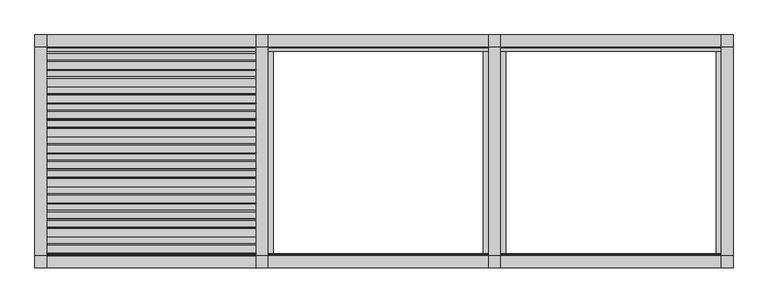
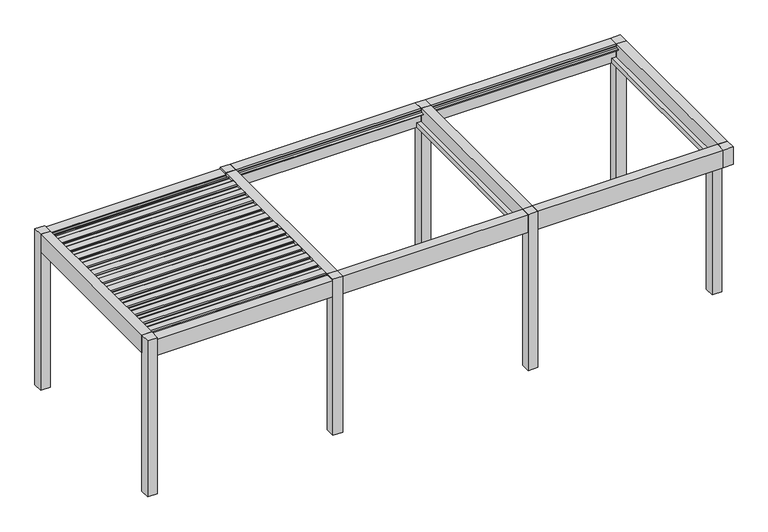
"""IFC4 building model written with IfcOpenShell, lengths in millimetres: proxy geometry, Renson_Amani_Patio_Cover : Renson_Amani_Patio_Cover."""

from ifc_helpers import new_model, si_unit, point, frame, frame_2d, origin, origin_with_axes, place, context, project, spatial, polyline, circle_curve, trimmed, segment, composite_curve, outline, extrude, source, transform, mapped, element, save


def generic_models_0d35a46a(model_context):
    return source(origin(), model_context, "Body", "SweptSolid", [
        extrude(outline(composite_curve([segment(polyline([(-1073.7289238, 2483.35), (-1076.1490335, 2511.01198), (-1104.984284, 2512.3970364), (-1101.5469529, 2531.8911096), (-991.549838, 2526.6075693)]), True, "CONTINUOUS"), segment(trimmed(circle_curve(frame_2d((-992.26951, 2511.6248435)), 15.0), [point((-991.549838, 2526.6075693))], [point((-977.4973937, 2514.2295662))], False, "CARTESIAN"), True, "CONTINUOUS"), segment(polyline([(-977.4973937, 2514.2295662), (-974.1067023, 2495.0), (-886.3709263, 2495.0), (-883.3594689, 2512.0788237), (-868.0824984, 2511.3450182), (-865.6332517, 2483.35), (-1073.7289238, 2483.35)]), True, "CONTINUOUS")], self_intersect=False)), frame((-1350.0, 0.0, 0.0), z_axis=(1.0, 0.0, 0.0), x_axis=(0.0, 1.0, 0.0)), (0.0, 0.0, 1.0), 2700.0),
        extrude(outline(composite_curve([segment(polyline([(-858.7132078, 2483.35), (-861.1333174, 2511.01198), (-889.9685679, 2512.3970364), (-886.5312368, 2531.8911096), (-776.534122, 2526.6075693)]), True, "CONTINUOUS"), segment(trimmed(circle_curve(frame_2d((-777.2537939, 2511.6248435)), 15.0), [point((-776.534122, 2526.6075693))], [point((-762.4816776, 2514.2295662))], False, "CARTESIAN"), True, "CONTINUOUS"), segment(polyline([(-762.4816776, 2514.2295662), (-759.0909863, 2495.0), (-671.3552102, 2495.0), (-668.3437528, 2512.0788237), (-653.0667824, 2511.3450182), (-650.6175356, 2483.35), (-858.7132078, 2483.35)]), True, "CONTINUOUS")], self_intersect=False)), frame((-1350.0, 0.0, 0.0), z_axis=(1.0, 0.0, 0.0), x_axis=(0.0, 1.0, 0.0)), (0.0, 0.0, 1.0), 2700.0),
        extrude(outline(composite_curve([segment(polyline([(-643.6974917, 2483.35), (-646.1176014, 2511.01198), (-674.9528519, 2512.3970364), (-671.5155208, 2531.8911096), (-561.5184059, 2526.6075693)]), True, "CONTINUOUS"), segment(trimmed(circle_curve(frame_2d((-562.2380779, 2511.6248435)), 15.0), [point((-561.5184059, 2526.6075693))], [point((-547.4659616, 2514.2295662))], False, "CARTESIAN"), True, "CONTINUOUS"), segment(polyline([(-547.4659616, 2514.2295662), (-544.0752702, 2495.0), (-456.3394942, 2495.0), (-453.3280368, 2512.0788237), (-438.0510663, 2511.3450182), (-435.6018196, 2483.35), (-643.6974917, 2483.35)]), True, "CONTINUOUS")], self_intersect=False)), frame((-1350.0, 0.0, 0.0), z_axis=(1.0, 0.0, 0.0), x_axis=(0.0, 1.0, 0.0)), (0.0, 0.0, 1.0), 2700.0),
        extrude(outline(composite_curve([segment(polyline([(-428.6817757, 2483.35), (-431.1018854, 2511.01198), (-459.9371358, 2512.3970364), (-456.4998047, 2531.8911096), (-346.5026899, 2526.6075693)]), True, "CONTINUOUS"), segment(trimmed(circle_curve(frame_2d((-347.2223618, 2511.6248435)), 15.0), [point((-346.5026899, 2526.6075693))], [point((-332.4502455, 2514.2295662))], False, "CARTESIAN"), True, "CONTINUOUS"), segment(polyline([(-332.4502455, 2514.2295662), (-329.0595542, 2495.0), (-241.3237782, 2495.0), (-238.3123207, 2512.0788237), (-223.0353503, 2511.3450182), (-220.5861035, 2483.35), (-428.6817757, 2483.35)]), True, "CONTINUOUS")], self_intersect=False)), frame((-1350.0, 0.0, 0.0), z_axis=(1.0, 0.0, 0.0), x_axis=(0.0, 1.0, 0.0)), (0.0, 0.0, 1.0), 2700.0),
        extrude(outline(composite_curve([segment(polyline([(-213.6660597, 2483.35), (-216.0861693, 2511.01198), (-244.9214198, 2512.3970364), (-241.4840887, 2531.8911096), (-131.4869738, 2526.6075693)]), True, "CONTINUOUS"), segment(trimmed(circle_curve(frame_2d((-132.2066458, 2511.6248435)), 15.0), [point((-131.4869738, 2526.6075693))], [point((-117.4345295, 2514.2295662))], False, "CARTESIAN"), True, "CONTINUOUS"), segment(polyline([(-117.4345295, 2514.2295662), (-114.0438381, 2495.0), (-26.3080621, 2495.0), (-23.2966047, 2512.0788237), (-8.0196342, 2511.3450182), (-5.5703875, 2483.35), (-213.6660597, 2483.35)]), True, "CONTINUOUS")], self_intersect=False)), frame((-1350.0, 0.0, 0.0), z_axis=(1.0, 0.0, 0.0), x_axis=(0.0, 1.0, 0.0)), (0.0, 0.0, 1.0), 2700.0),
        extrude(outline(composite_curve([segment(polyline([(1.3496564, 2483.35), (-1.0704533, 2511.01198), (-29.9057037, 2512.3970364), (-26.4683726, 2531.8911096), (83.5287422, 2526.6075693)]), True, "CONTINUOUS"), segment(trimmed(circle_curve(frame_2d((82.8090703, 2511.6248435)), 15.0), [point((83.5287422, 2526.6075693))], [point((97.5811866, 2514.2295662))], False, "CARTESIAN"), True, "CONTINUOUS"), segment(polyline([(97.5811866, 2514.2295662), (100.9718779, 2495.0), (188.7076539, 2495.0), (191.7191114, 2512.0788237), (206.9960818, 2511.3450182), (209.4453286, 2483.35), (1.3496564, 2483.35)]), True, "CONTINUOUS")], self_intersect=False)), frame((-1350.0, 0.0, 0.0), z_axis=(1.0, 0.0, 0.0), x_axis=(0.0, 1.0, 0.0)), (0.0, 0.0, 1.0), 2700.0),
        extrude(outline(composite_curve([segment(polyline([(216.3653724, 2483.35), (213.9452628, 2511.01198), (185.1100123, 2512.3970364), (188.5473434, 2531.8911096), (298.5444582, 2526.6075693)]), True, "CONTINUOUS"), segment(trimmed(circle_curve(frame_2d((297.8247863, 2511.6248435)), 15.0), [point((298.5444582, 2526.6075693))], [point((312.5969026, 2514.2295662))], False, "CARTESIAN"), True, "CONTINUOUS"), segment(polyline([(312.5969026, 2514.2295662), (315.987594, 2495.0), (403.72337, 2495.0), (406.7348274, 2512.0788237), (422.0117979, 2511.3450182), (424.4610446, 2483.35), (216.3653724, 2483.35)]), True, "CONTINUOUS")], self_intersect=False)), frame((-1350.0, 0.0, 0.0), z_axis=(1.0, 0.0, 0.0), x_axis=(0.0, 1.0, 0.0)), (0.0, 0.0, 1.0), 2700.0),
        extrude(outline(composite_curve([segment(polyline([(431.3810885, 2483.35), (428.9609788, 2511.01198), (400.1257284, 2512.3970364), (403.5630594, 2531.8911096), (513.5601743, 2526.6075693)]), True, "CONTINUOUS"), segment(trimmed(circle_curve(frame_2d((512.8405024, 2511.6248435)), 15.0), [point((513.5601743, 2526.6075693))], [point((527.6126187, 2514.2295662))], False, "CARTESIAN"), True, "CONTINUOUS"), segment(polyline([(527.6126187, 2514.2295662), (531.00331, 2495.0), (618.739086, 2495.0), (621.7505434, 2512.0788237), (637.0275139, 2511.3450182), (639.4767606, 2483.35), (431.3810885, 2483.35)]), True, "CONTINUOUS")], self_intersect=False)), frame((-1350.0, 0.0, 0.0), z_axis=(1.0, 0.0, 0.0), x_axis=(0.0, 1.0, 0.0)), (0.0, 0.0, 1.0), 2700.0),
        extrude(outline(composite_curve([segment(polyline([(646.3968045, 2483.35), (643.9766949, 2511.01198), (615.1414444, 2512.3970364), (618.5787755, 2531.8911096), (728.5758903, 2526.6075693)]), True, "CONTINUOUS"), segment(trimmed(circle_curve(frame_2d((727.8562184, 2511.6248435)), 15.0), [point((728.5758903, 2526.6075693))], [point((742.6283347, 2514.2295662))], False, "CARTESIAN"), True, "CONTINUOUS"), segment(polyline([(742.6283347, 2514.2295662), (746.019026, 2495.0), (833.7548021, 2495.0), (836.7662595, 2512.0788237), (852.04323, 2511.3450182), (854.4924767, 2483.35), (646.3968045, 2483.35)]), True, "CONTINUOUS")], self_intersect=False)), frame((-1350.0, 0.0, 0.0), z_axis=(1.0, 0.0, 0.0), x_axis=(0.0, 1.0, 0.0)), (0.0, 0.0, 1.0), 2700.0),
        extrude(outline(composite_curve([segment(polyline([(861.4125206, 2483.35), (858.9924109, 2511.01198), (830.1571605, 2512.3970364), (833.5944915, 2531.8911096), (943.5916064, 2526.6075693)]), True, "CONTINUOUS"), segment(trimmed(circle_curve(frame_2d((942.8719345, 2511.6248435)), 15.0), [point((943.5916064, 2526.6075693))], [point((957.6440508, 2514.2295662))], False, "CARTESIAN"), True, "CONTINUOUS"), segment(polyline([(957.6440508, 2514.2295662), (961.0347421, 2495.0), (1048.7705181, 2495.0), (1051.7819755, 2512.0788237), (1067.058946, 2511.3450182), (1069.5081927, 2483.35), (861.4125206, 2483.35)]), True, "CONTINUOUS")], self_intersect=False)), frame((-1350.0, 0.0, 0.0), z_axis=(1.0, 0.0, 0.0), x_axis=(0.0, 1.0, 0.0)), (0.0, 0.0, 1.0), 2700.0),
        extrude(outline(composite_curve([segment(polyline([(-1288.7446399, 2483.35), (-1291.1647495, 2511.01198), (-1320.0, 2512.3970364), (-1316.5626689, 2531.8911096), (-1206.5655541, 2526.6075693)]), True, "CONTINUOUS"), segment(trimmed(circle_curve(frame_2d((-1207.285226, 2511.6248435)), 15.0), [point((-1206.5655541, 2526.6075693))], [point((-1192.5131097, 2514.2295662))], False, "CARTESIAN"), True, "CONTINUOUS"), segment(polyline([(-1192.5131097, 2514.2295662), (-1189.1224184, 2495.0), (-1101.3866423, 2495.0), (-1098.3751849, 2512.0788237), (-1083.0982144, 2511.3450182), (-1080.6489677, 2483.35), (-1288.7446399, 2483.35)]), True, "CONTINUOUS")], self_intersect=False)), frame((-1350.0, 0.0, 0.0), z_axis=(1.0, 0.0, 0.0), x_axis=(0.0, 1.0, 0.0)), (0.0, 0.0, 1.0), 2700.0),
        extrude(outline(composite_curve([segment(polyline([(1076.4282366, 2483.35), (1074.008127, 2511.01198), (1045.1728765, 2512.3970364), (1048.6102076, 2531.8911096), (1158.6073224, 2526.6075693)]), True, "CONTINUOUS"), segment(trimmed(circle_curve(frame_2d((1157.8876505, 2511.6248435)), 15.0), [point((1158.6073224, 2526.6075693))], [point((1172.6597668, 2514.2295662))], False, "CARTESIAN"), True, "CONTINUOUS"), segment(polyline([(1172.6597668, 2514.2295662), (1176.0504581, 2495.0), (1263.7862342, 2495.0), (1266.7976916, 2512.0788237), (1282.0746621, 2511.3450182), (1284.5239088, 2483.35), (1076.4282366, 2483.35)]), True, "CONTINUOUS")], self_intersect=False)), frame((-1350.0, 0.0, 0.0), z_axis=(1.0, 0.0, 0.0), x_axis=(0.0, 1.0, 0.0)), (0.0, 0.0, 1.0), 2700.0),
        extrude(outline(polyline([(7500.0, -1050.0), (7500.0, -1200.0), (7350.0, -1200.0), (7350.0, -1050.0), (7500.0, -1050.0)])), origin_with_axes(), (0.0, 0.0, 1.0), 2250.0),
        extrude(outline(polyline([(7500.0, 1500.0), (7500.0, 1350.0), (7350.0, 1350.0), (7350.0, 1500.0), (7500.0, 1500.0)])), origin_with_axes(), (0.0, 0.0, 1.0), 2535.0),
        extrude(outline(polyline([(4500.0, 1500.0), (4500.0, 1350.0), (4350.0, 1350.0), (4350.0, 1500.0), (4500.0, 1500.0)])), origin_with_axes(), (0.0, 0.0, 1.0), 2535.0),
        extrude(outline(polyline([(7500.0, -1350.0), (7500.0, -1500.0), (7350.0, -1500.0), (7350.0, -1350.0), (7500.0, -1350.0)])), frame((0.0, 0.0, 2250.0), z_axis=(0.0, 0.0, 1.0), x_axis=(1.0, 0.0, 0.0)), (0.0, 0.0, 1.0), 285.0),
        extrude(outline(polyline([(4500.0, -1350.0), (4500.0, -1500.0), (4350.0, -1500.0), (4350.0, -1350.0), (4500.0, -1350.0)])), origin_with_axes(), (0.0, 0.0, 1.0), 2535.0),
        extrude(outline(polyline([(1500.0, -1350.0), (1500.0, -1500.0), (1350.0, -1500.0), (1350.0, -1350.0), (1500.0, -1350.0)])), origin_with_axes(), (0.0, 0.0, 1.0), 2535.0),
        extrude(outline(polyline([(1500.0, 1500.0), (1500.0, 1350.0), (1350.0, 1350.0), (1350.0, 1500.0), (1500.0, 1500.0)])), origin_with_axes(), (0.0, 0.0, 1.0), 2535.0),
        extrude(outline(polyline([(-1350.0, 1350.0), (-1500.0, 1350.0), (-1500.0, 1500.0), (-1350.0, 1500.0), (-1350.0, 1350.0)])), origin_with_axes(), (0.0, 0.0, 1.0), 2535.0),
        extrude(outline(polyline([(-1350.0, -1350.0), (-1350.0, -1500.0), (-1500.0, -1500.0), (-1500.0, -1350.0), (-1350.0, -1350.0)])), origin_with_axes(), (0.0, 0.0, 1.0), 2535.0),
        extrude(outline(polyline([(1350.0, 2466.6559373), (1290.0, 2466.6559373), (1286.2487113, 2480.6555802), (1329.5940945, 2480.6555802), (1345.0, 2496.400763), (1345.0, 2504.2449277), (1350.0, 2504.6823598), (1350.0, 2466.6559373)])), frame((4500.0, 0.0, 0.0), z_axis=(1.0, 0.0, 0.0), x_axis=(0.0, 1.0, 0.0)), (0.0, 0.0, 1.0), 2850.0),
        extrude(outline(polyline([(-1350.0, 2504.6823598), (-1345.0, 2504.2449277), (-1345.0, 2496.400763), (-1329.2544156, 2480.6555802), (-1319.9090324, 2480.6555802), (-1323.6603211, 2466.6559373), (-1350.0, 2466.6559373), (-1350.0, 2250.0), (-1500.0, 2250.0), (-1500.0, 2535.0), (-1350.0, 2535.0), (-1350.0, 2504.6823598)])), frame((4500.0, 0.0, 0.0), z_axis=(1.0, 0.0, 0.0), x_axis=(0.0, 1.0, 0.0)), (0.0, 0.0, 1.0), 2850.0),
        extrude(outline(polyline([(7350.0, 1500.0), (7350.0, 1350.0), (4500.0, 1350.0), (4500.0, 1500.0), (7350.0, 1500.0)])), frame((0.0, 0.0, 2250.0), z_axis=(0.0, 0.0, 1.0), x_axis=(1.0, 0.0, 0.0)), (0.0, 0.0, 1.0), 285.0),
        extrude(outline(polyline([(2535.0, 4350.0), (2322.0, 4350.0), (2322.0, 4280.0000001), (2250.0, 4280.0000001), (2250.0, 4569.9999999), (2322.0, 4569.9999999), (2322.0, 4500.0), (2535.0, 4500.0), (2535.0, 4350.0)])), frame((0.0, -1350.0, 0.0), z_axis=(0.0, 1.0, 0.0), x_axis=(0.0, 0.0, 1.0)), (0.0, 0.0, 1.0), 2700.0),
        extrude(outline(polyline([(2535.0, 7350.0), (2322.0, 7350.0), (2322.0, 7280.0000001), (2250.0, 7280.0000001), (2250.0, 7500.0), (2535.0, 7500.0), (2535.0, 7350.0)])), frame((0.0, -1350.0, 0.0), z_axis=(0.0, 1.0, 0.0), x_axis=(0.0, 0.0, 1.0)), (0.0, 0.0, 1.0), 2700.0),
        extrude(outline(polyline([(1350.0, 2466.6559373), (1290.0, 2466.6559373), (1286.2487113, 2480.6555802), (1329.5940945, 2480.6555802), (1345.0, 2496.400763), (1345.0, 2504.2449277), (1350.0, 2504.6823598), (1350.0, 2466.6559373)])), frame((1500.0, 0.0, 0.0), z_axis=(1.0, 0.0, 0.0), x_axis=(0.0, 1.0, 0.0)), (0.0, 0.0, 1.0), 2850.0),
        extrude(outline(polyline([(4350.0, 1500.0), (4350.0, 1350.0), (1500.0, 1350.0), (1500.0, 1500.0), (4350.0, 1500.0)])), frame((0.0, 0.0, 2250.0), z_axis=(0.0, 0.0, 1.0), x_axis=(1.0, 0.0, 0.0)), (0.0, 0.0, 1.0), 285.0),
        extrude(outline(polyline([(-1350.0, 2250.0), (-1500.0, 2250.0), (-1500.0, 2535.0), (-1350.0, 2535.0), (-1350.0, 2504.6823598), (-1345.0, 2504.2449277), (-1345.0, 2496.400763), (-1329.2544156, 2480.6555802), (-1319.9090324, 2480.6555802), (-1323.6603211, 2466.6559373), (-1350.0, 2466.6559373), (-1350.0, 2250.0)])), frame((1500.0, 0.0, 0.0), z_axis=(1.0, 0.0, 0.0), x_axis=(0.0, 1.0, 0.0)), (0.0, 0.0, 1.0), 2850.0),
        extrude(outline(polyline([(2535.0, 1350.0), (2322.0, 1350.0), (2322.0, 1280.0000001), (2250.0, 1280.0000001), (2250.0, 1569.9999999), (2322.0, 1569.9999999), (2322.0, 1500.0), (2535.0, 1500.0), (2535.0, 1350.0)])), frame((0.0, -1350.0, 0.0), z_axis=(0.0, 1.0, 0.0), x_axis=(0.0, 0.0, 1.0)), (0.0, 0.0, 1.0), 2700.0),
        extrude(outline(polyline([(2535.0, 4350.0), (2322.0, 4350.0), (2322.0, 4280.0000001), (2250.0, 4280.0000001), (2250.0, 4500.0), (2535.0, 4500.0), (2535.0, 4350.0)])), frame((0.0, -1350.0, 0.0), z_axis=(0.0, 1.0, 0.0), x_axis=(0.0, 0.0, 1.0)), (0.0, 0.0, 1.0), 2700.0),
        extrude(outline(polyline([(1350.0, 2466.6559373), (1290.0, 2466.6559373), (1286.2487113, 2480.6555802), (1329.5940945, 2480.6555802), (1345.0, 2496.400763), (1345.0, 2504.2449277), (1350.0, 2504.6823598), (1350.0, 2466.6559373)])), frame((-1350.0, 0.0, 0.0), z_axis=(1.0, 0.0, 0.0), x_axis=(0.0, 1.0, 0.0)), (0.0, 0.0, 1.0), 2700.0),
        extrude(outline(polyline([(-1350.0, 2510.0), (-1350.0, 2479.6823598), (-1345.0, 2479.2449277), (-1345.0, 2471.400763), (-1329.2544156, 2455.6555802), (-1319.9090324, 2455.6555802), (-1323.6603211, 2441.6559373), (-1350.0, 2441.6559373), (-1350.0, 2250.0), (-1500.0, 2250.0), (-1500.0, 2510.0), (-1350.0, 2510.0)])), frame((-1350.0, 0.0, 0.0), z_axis=(1.0, 0.0, 0.0), x_axis=(0.0, 1.0, 0.0)), (0.0, 0.0, 1.0), 2700.0),
        extrude(outline(polyline([(1350.0, 1500.0), (1350.0, 1350.0), (-1350.0, 1350.0), (-1350.0, 1500.0), (1350.0, 1500.0)])), frame((0.0, 0.0, 2250.0), z_axis=(0.0, 0.0, 1.0), x_axis=(1.0, 0.0, 0.0)), (0.0, 0.0, 1.0), 260.0),
        extrude(outline(polyline([(2535.0, -1350.0), (2535.0, -1500.0), (2250.0, -1500.0), (2250.0, -1280.0000001), (2322.0, -1280.0000001), (2322.0, -1350.0), (2535.0, -1350.0)])), frame((0.0, -1350.0, 0.0), z_axis=(0.0, 1.0, 0.0), x_axis=(0.0, 0.0, 1.0)), (0.0, 0.0, 1.0), 2700.0),
        extrude(outline(polyline([(2250.0, 1500.0), (2535.0, 1500.0), (2535.0, 1350.0), (2322.0, 1350.0), (2322.0, 1280.0000001), (2250.0, 1280.0000001), (2250.0, 1500.0)])), frame((0.0, -1350.0, 0.0), z_axis=(0.0, 1.0, 0.0), x_axis=(0.0, 0.0, 1.0)), (0.0, 0.0, 1.0), 2700.0),
    ])


if __name__ == "__main__":
    model = new_model("IFC4")
    model_context = context("Model", 3, world=origin())
    ifc_project = project(units=[si_unit("LENGTHUNIT", "METRE", prefix="MILLI")], contexts=[model_context])
    site = spatial("IfcSite", under=ifc_project)
    building = spatial("IfcBuilding", under=site)
    placement = place(None, origin())
    generic_models_shape = generic_models_0d35a46a(model_context)
    element("IfcBuildingElementProxy", 1, Name="Renson_Amani_Patio_Cover : Renson_Amani_Patio_Cover", ObjectType="Renson_Amani_Patio_Cover : Renson_Amani_Patio_Cover", at=placement, inside=building, context=model_context, shape_type="MappedRepresentation", body=[
        mapped(generic_models_shape, transform((0.0, 0.0, 0.0), x_axis=(1.0, 0.0, 0.0), y_axis=(0.0, 1.0, 0.0), z_axis=(0.0, 0.0, 1.0))),
    ])
    save(model, "model.ifc")
